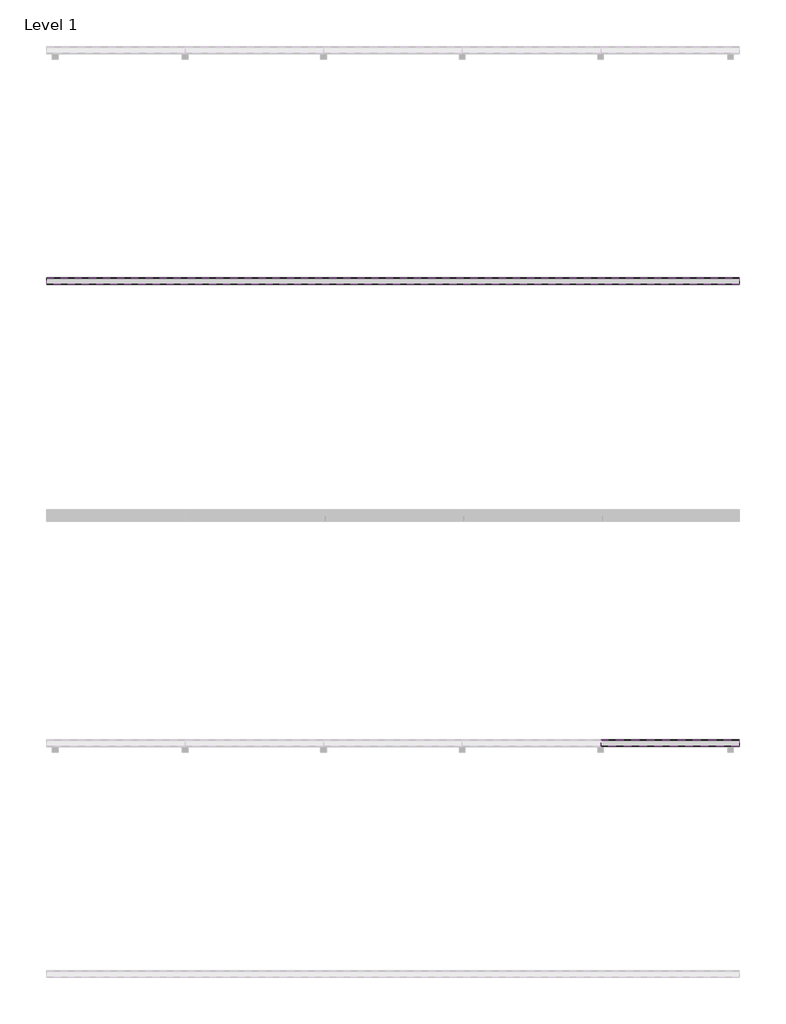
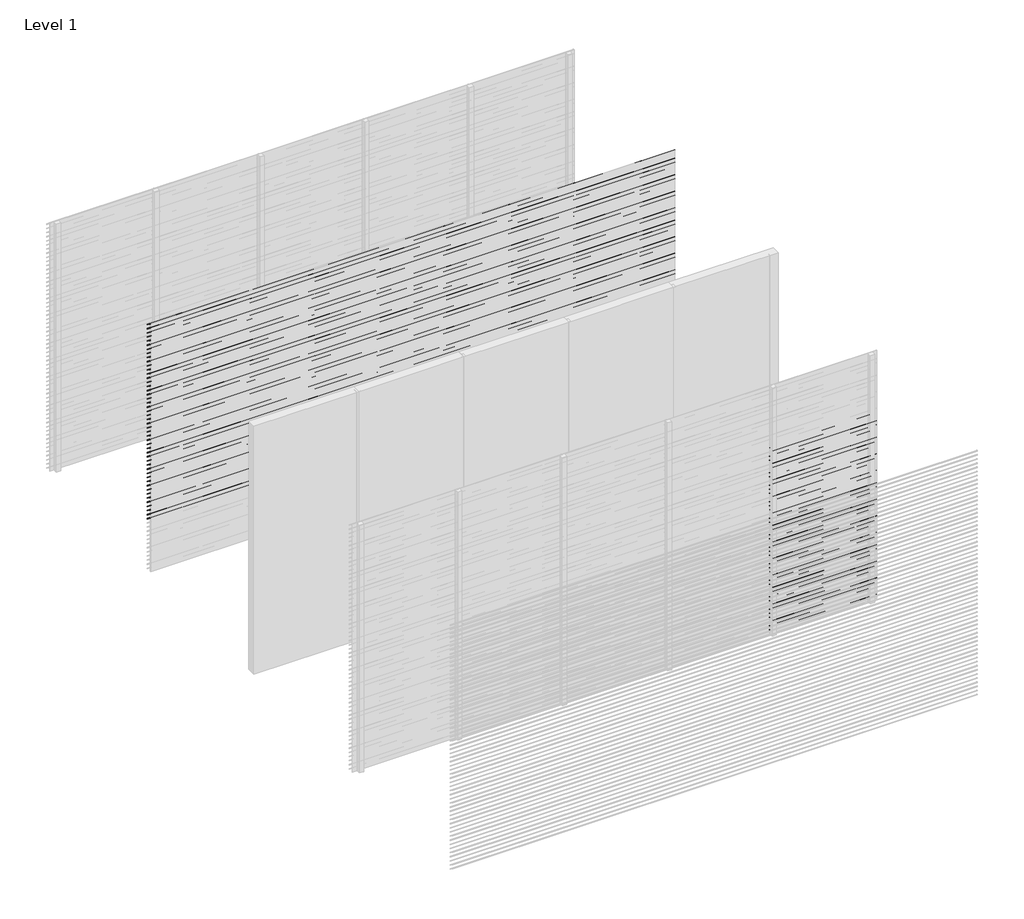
# One storey, part 9 of 16: 93 proxies.
"""IFC4 building model written with IfcOpenShell, lengths in millimetres."""

from ifc_helpers import new_model, si_unit, frame, origin, place, context, project, spatial, polyline, outline, extrude, element, save

model = new_model("IFC4")

# Units and contexts
model_context = context("Model", 3, world=origin())
ifc_project = project(units=[si_unit("LENGTHUNIT", "METRE", prefix="MILLI")], contexts=[model_context])

# Site, building, storey
site = spatial("IfcSite", under=ifc_project)
building = spatial("IfcBuilding", under=site)
storey = spatial("IfcBuildingStorey", under=building, Name="Level 1", Elevation=0.0)

# Proxies
placement = place(None, origin())
element("IfcBuildingElementProxy", 1, Name="Wall Sweeps", at=placement, inside=storey, context=model_context, shape_type="SweptSolid", body=[
    extrude(outline(polyline([(-7995.0, 3000.0), (-7995.0, 2998.0), (-7939.0, 2954.0), (-7939.0, 2946.0), (-7997.0, 2991.5714286), (-7997.0, 3000.0), (-7995.0, 3000.0)])), frame((0.0, 0.0, 0.0), z_axis=(1.0, 0.0, 0.0), x_axis=(0.0, 1.0, 0.0)), (0.0, 0.0, 1.0), 6000.0),
])
element("IfcBuildingElementProxy", 2, Name="Wall Sweeps", at=placement, inside=storey, context=model_context, shape_type="SweptSolid", body=[
    extrude(outline(polyline([(-7995.0, 2950.0), (-7995.0, 2948.0), (-7939.0, 2904.0), (-7939.0, 2896.0), (-7997.0, 2941.5714286), (-7997.0, 2950.0), (-7995.0, 2950.0)])), frame((0.0, 0.0, 0.0), z_axis=(1.0, 0.0, 0.0), x_axis=(0.0, 1.0, 0.0)), (0.0, 0.0, 1.0), 6000.0),
])
element("IfcBuildingElementProxy", 3, Name="Wall Sweeps", at=placement, inside=storey, context=model_context, shape_type="SweptSolid", body=[
    extrude(outline(polyline([(-7995.0, 2900.0), (-7995.0, 2898.0), (-7939.0, 2854.0), (-7939.0, 2846.0), (-7997.0, 2891.5714286), (-7997.0, 2900.0), (-7995.0, 2900.0)])), frame((0.0, 0.0, 0.0), z_axis=(1.0, 0.0, 0.0), x_axis=(0.0, 1.0, 0.0)), (0.0, 0.0, 1.0), 6000.0),
])
element("IfcBuildingElementProxy", 4, Name="Wall Sweeps", at=placement, inside=storey, context=model_context, shape_type="SweptSolid", body=[
    extrude(outline(polyline([(-7995.0, 2850.0), (-7995.0, 2848.0), (-7939.0, 2804.0), (-7939.0, 2796.0), (-7997.0, 2841.5714286), (-7997.0, 2850.0), (-7995.0, 2850.0)])), frame((0.0, 0.0, 0.0), z_axis=(1.0, 0.0, 0.0), x_axis=(0.0, 1.0, 0.0)), (0.0, 0.0, 1.0), 6000.0),
])
element("IfcBuildingElementProxy", 5, Name="Wall Sweeps", at=placement, inside=storey, context=model_context, shape_type="SweptSolid", body=[
    extrude(outline(polyline([(-7995.0, 2800.0), (-7995.0, 2798.0), (-7939.0, 2754.0), (-7939.0, 2746.0), (-7997.0, 2791.5714286), (-7997.0, 2800.0), (-7995.0, 2800.0)])), frame((0.0, 0.0, 0.0), z_axis=(1.0, 0.0, 0.0), x_axis=(0.0, 1.0, 0.0)), (0.0, 0.0, 1.0), 6000.0),
])
element("IfcBuildingElementProxy", 6, Name="Wall Sweeps", at=placement, inside=storey, context=model_context, shape_type="SweptSolid", body=[
    extrude(outline(polyline([(-7995.0, 2750.0), (-7995.0, 2748.0), (-7939.0, 2704.0), (-7939.0, 2696.0), (-7997.0, 2741.5714286), (-7997.0, 2750.0), (-7995.0, 2750.0)])), frame((0.0, 0.0, 0.0), z_axis=(1.0, 0.0, 0.0), x_axis=(0.0, 1.0, 0.0)), (0.0, 0.0, 1.0), 6000.0),
])
element("IfcBuildingElementProxy", 7, Name="Wall Sweeps", at=placement, inside=storey, context=model_context, shape_type="SweptSolid", body=[
    extrude(outline(polyline([(-7995.0, 2700.0), (-7995.0, 2698.0), (-7939.0, 2654.0), (-7939.0, 2646.0), (-7997.0, 2691.5714286), (-7997.0, 2700.0), (-7995.0, 2700.0)])), frame((0.0, 0.0, 0.0), z_axis=(1.0, 0.0, 0.0), x_axis=(0.0, 1.0, 0.0)), (0.0, 0.0, 1.0), 6000.0),
])
element("IfcBuildingElementProxy", 8, Name="Wall Sweeps", at=placement, inside=storey, context=model_context, shape_type="SweptSolid", body=[
    extrude(outline(polyline([(-7995.0, 2650.0), (-7995.0, 2648.0), (-7939.0, 2604.0), (-7939.0, 2596.0), (-7997.0, 2641.5714286), (-7997.0, 2650.0), (-7995.0, 2650.0)])), frame((0.0, 0.0, 0.0), z_axis=(1.0, 0.0, 0.0), x_axis=(0.0, 1.0, 0.0)), (0.0, 0.0, 1.0), 6000.0),
])
element("IfcBuildingElementProxy", 9, Name="Wall Sweeps", at=placement, inside=storey, context=model_context, shape_type="SweptSolid", body=[
    extrude(outline(polyline([(-7995.0, 2600.0), (-7995.0, 2598.0), (-7939.0, 2554.0), (-7939.0, 2546.0), (-7997.0, 2591.5714286), (-7997.0, 2600.0), (-7995.0, 2600.0)])), frame((0.0, 0.0, 0.0), z_axis=(1.0, 0.0, 0.0), x_axis=(0.0, 1.0, 0.0)), (0.0, 0.0, 1.0), 6000.0),
])
element("IfcBuildingElementProxy", 10, Name="Wall Sweeps", at=placement, inside=storey, context=model_context, shape_type="SweptSolid", body=[
    extrude(outline(polyline([(-7995.0, 2550.0), (-7995.0, 2548.0), (-7939.0, 2504.0), (-7939.0, 2496.0), (-7997.0, 2541.5714286), (-7997.0, 2550.0), (-7995.0, 2550.0)])), frame((0.0, 0.0, 0.0), z_axis=(1.0, 0.0, 0.0), x_axis=(0.0, 1.0, 0.0)), (0.0, 0.0, 1.0), 6000.0),
])
element("IfcBuildingElementProxy", 11, Name="Wall Sweeps", at=placement, inside=storey, context=model_context, shape_type="SweptSolid", body=[
    extrude(outline(polyline([(-7995.0, 2500.0), (-7995.0, 2498.0), (-7939.0, 2454.0), (-7939.0, 2446.0), (-7997.0, 2491.5714286), (-7997.0, 2500.0), (-7995.0, 2500.0)])), frame((0.0, 0.0, 0.0), z_axis=(1.0, 0.0, 0.0), x_axis=(0.0, 1.0, 0.0)), (0.0, 0.0, 1.0), 6000.0),
])
element("IfcBuildingElementProxy", 12, Name="Wall Sweeps", at=placement, inside=storey, context=model_context, shape_type="SweptSolid", body=[
    extrude(outline(polyline([(-7995.0, 2450.0), (-7995.0, 2448.0), (-7939.0, 2404.0), (-7939.0, 2396.0), (-7997.0, 2441.5714286), (-7997.0, 2450.0), (-7995.0, 2450.0)])), frame((0.0, 0.0, 0.0), z_axis=(1.0, 0.0, 0.0), x_axis=(0.0, 1.0, 0.0)), (0.0, 0.0, 1.0), 6000.0),
])
element("IfcBuildingElementProxy", 13, Name="Wall Sweeps", at=placement, inside=storey, context=model_context, shape_type="SweptSolid", body=[
    extrude(outline(polyline([(-7995.0, 2400.0), (-7995.0, 2398.0), (-7939.0, 2354.0), (-7939.0, 2346.0), (-7997.0, 2391.5714286), (-7997.0, 2400.0), (-7995.0, 2400.0)])), frame((0.0, 0.0, 0.0), z_axis=(1.0, 0.0, 0.0), x_axis=(0.0, 1.0, 0.0)), (0.0, 0.0, 1.0), 6000.0),
])
element("IfcBuildingElementProxy", 14, Name="Wall Sweeps", at=placement, inside=storey, context=model_context, shape_type="SweptSolid", body=[
    extrude(outline(polyline([(-7995.0, 2350.0), (-7995.0, 2348.0), (-7939.0, 2304.0), (-7939.0, 2296.0), (-7997.0, 2341.5714286), (-7997.0, 2350.0), (-7995.0, 2350.0)])), frame((0.0, 0.0, 0.0), z_axis=(1.0, 0.0, 0.0), x_axis=(0.0, 1.0, 0.0)), (0.0, 0.0, 1.0), 6000.0),
])
element("IfcBuildingElementProxy", 15, Name="Wall Sweeps", at=placement, inside=storey, context=model_context, shape_type="SweptSolid", body=[
    extrude(outline(polyline([(-7995.0, 2300.0), (-7995.0, 2298.0), (-7939.0, 2254.0), (-7939.0, 2246.0), (-7997.0, 2291.5714286), (-7997.0, 2300.0), (-7995.0, 2300.0)])), frame((0.0, 0.0, 0.0), z_axis=(1.0, 0.0, 0.0), x_axis=(0.0, 1.0, 0.0)), (0.0, 0.0, 1.0), 6000.0),
])
element("IfcBuildingElementProxy", 16, Name="Wall Sweeps", at=placement, inside=storey, context=model_context, shape_type="SweptSolid", body=[
    extrude(outline(polyline([(-7995.0, 2250.0), (-7995.0, 2248.0), (-7939.0, 2204.0), (-7939.0, 2196.0), (-7997.0, 2241.5714286), (-7997.0, 2250.0), (-7995.0, 2250.0)])), frame((0.0, 0.0, 0.0), z_axis=(1.0, 0.0, 0.0), x_axis=(0.0, 1.0, 0.0)), (0.0, 0.0, 1.0), 6000.0),
])
element("IfcBuildingElementProxy", 17, Name="Wall Sweeps", at=placement, inside=storey, context=model_context, shape_type="SweptSolid", body=[
    extrude(outline(polyline([(-7995.0, 2200.0), (-7995.0, 2198.0), (-7939.0, 2154.0), (-7939.0, 2146.0), (-7997.0, 2191.5714286), (-7997.0, 2200.0), (-7995.0, 2200.0)])), frame((0.0, 0.0, 0.0), z_axis=(1.0, 0.0, 0.0), x_axis=(0.0, 1.0, 0.0)), (0.0, 0.0, 1.0), 6000.0),
])
element("IfcBuildingElementProxy", 18, Name="Wall Sweeps", at=placement, inside=storey, context=model_context, shape_type="SweptSolid", body=[
    extrude(outline(polyline([(-7995.0, 2150.0), (-7995.0, 2148.0), (-7939.0, 2104.0), (-7939.0, 2096.0), (-7997.0, 2141.5714286), (-7997.0, 2150.0), (-7995.0, 2150.0)])), frame((0.0, 0.0, 0.0), z_axis=(1.0, 0.0, 0.0), x_axis=(0.0, 1.0, 0.0)), (0.0, 0.0, 1.0), 6000.0),
])
element("IfcBuildingElementProxy", 19, Name="Wall Sweeps", at=placement, inside=storey, context=model_context, shape_type="SweptSolid", body=[
    extrude(outline(polyline([(-7995.0, 2100.0), (-7995.0, 2098.0), (-7939.0, 2054.0), (-7939.0, 2046.0), (-7997.0, 2091.5714286), (-7997.0, 2100.0), (-7995.0, 2100.0)])), frame((0.0, 0.0, 0.0), z_axis=(1.0, 0.0, 0.0), x_axis=(0.0, 1.0, 0.0)), (0.0, 0.0, 1.0), 6000.0),
])
element("IfcBuildingElementProxy", 20, Name="Wall Sweeps", at=placement, inside=storey, context=model_context, shape_type="SweptSolid", body=[
    extrude(outline(polyline([(-7995.0, 2050.0), (-7995.0, 2048.0), (-7939.0, 2004.0), (-7939.0, 1996.0), (-7997.0, 2041.5714286), (-7997.0, 2050.0), (-7995.0, 2050.0)])), frame((0.0, 0.0, 0.0), z_axis=(1.0, 0.0, 0.0), x_axis=(0.0, 1.0, 0.0)), (0.0, 0.0, 1.0), 6000.0),
])
element("IfcBuildingElementProxy", 21, Name="Wall Sweeps", at=placement, inside=storey, context=model_context, shape_type="SweptSolid", body=[
    extrude(outline(polyline([(-7995.0, 2000.0), (-7995.0, 1998.0), (-7939.0, 1954.0), (-7939.0, 1946.0), (-7997.0, 1991.5714286), (-7997.0, 2000.0), (-7995.0, 2000.0)])), frame((0.0, 0.0, 0.0), z_axis=(1.0, 0.0, 0.0), x_axis=(0.0, 1.0, 0.0)), (0.0, 0.0, 1.0), 6000.0),
])
element("IfcBuildingElementProxy", 22, Name="Wall Sweeps", at=placement, inside=storey, context=model_context, shape_type="SweptSolid", body=[
    extrude(outline(polyline([(-7995.0, 1950.0), (-7995.0, 1948.0), (-7939.0, 1904.0), (-7939.0, 1896.0), (-7997.0, 1941.5714286), (-7997.0, 1950.0), (-7995.0, 1950.0)])), frame((0.0, 0.0, 0.0), z_axis=(1.0, 0.0, 0.0), x_axis=(0.0, 1.0, 0.0)), (0.0, 0.0, 1.0), 6000.0),
])
element("IfcBuildingElementProxy", 23, Name="Wall Sweeps", at=placement, inside=storey, context=model_context, shape_type="SweptSolid", body=[
    extrude(outline(polyline([(-7995.0, 1900.0), (-7995.0, 1898.0), (-7939.0, 1854.0), (-7939.0, 1846.0), (-7997.0, 1891.5714286), (-7997.0, 1900.0), (-7995.0, 1900.0)])), frame((0.0, 0.0, 0.0), z_axis=(1.0, 0.0, 0.0), x_axis=(0.0, 1.0, 0.0)), (0.0, 0.0, 1.0), 6000.0),
])
element("IfcBuildingElementProxy", 24, Name="Wall Sweeps", at=placement, inside=storey, context=model_context, shape_type="SweptSolid", body=[
    extrude(outline(polyline([(-7995.0, 1850.0), (-7995.0, 1848.0), (-7939.0, 1804.0), (-7939.0, 1796.0), (-7997.0, 1841.5714286), (-7997.0, 1850.0), (-7995.0, 1850.0)])), frame((0.0, 0.0, 0.0), z_axis=(1.0, 0.0, 0.0), x_axis=(0.0, 1.0, 0.0)), (0.0, 0.0, 1.0), 6000.0),
])
element("IfcBuildingElementProxy", 25, Name="Wall Sweeps", at=placement, inside=storey, context=model_context, shape_type="SweptSolid", body=[
    extrude(outline(polyline([(-7995.0, 1800.0), (-7995.0, 1798.0), (-7939.0, 1754.0), (-7939.0, 1746.0), (-7997.0, 1791.5714286), (-7997.0, 1800.0), (-7995.0, 1800.0)])), frame((0.0, 0.0, 0.0), z_axis=(1.0, 0.0, 0.0), x_axis=(0.0, 1.0, 0.0)), (0.0, 0.0, 1.0), 6000.0),
])
element("IfcBuildingElementProxy", 26, Name="Wall Sweeps", at=placement, inside=storey, context=model_context, shape_type="SweptSolid", body=[
    extrude(outline(polyline([(-7995.0, 1750.0), (-7995.0, 1748.0), (-7939.0, 1704.0), (-7939.0, 1696.0), (-7997.0, 1741.5714286), (-7997.0, 1750.0), (-7995.0, 1750.0)])), frame((0.0, 0.0, 0.0), z_axis=(1.0, 0.0, 0.0), x_axis=(0.0, 1.0, 0.0)), (0.0, 0.0, 1.0), 6000.0),
])
element("IfcBuildingElementProxy", 27, Name="Wall Sweeps", at=placement, inside=storey, context=model_context, shape_type="SweptSolid", body=[
    extrude(outline(polyline([(-7995.0, 1700.0), (-7995.0, 1698.0), (-7939.0, 1654.0), (-7939.0, 1646.0), (-7997.0, 1691.5714286), (-7997.0, 1700.0), (-7995.0, 1700.0)])), frame((0.0, 0.0, 0.0), z_axis=(1.0, 0.0, 0.0), x_axis=(0.0, 1.0, 0.0)), (0.0, 0.0, 1.0), 6000.0),
])
element("IfcBuildingElementProxy", 28, Name="Wall Sweeps", at=placement, inside=storey, context=model_context, shape_type="SweptSolid", body=[
    extrude(outline(polyline([(-7995.0, 1650.0), (-7995.0, 1648.0), (-7939.0, 1604.0), (-7939.0, 1596.0), (-7997.0, 1641.5714286), (-7997.0, 1650.0), (-7995.0, 1650.0)])), frame((0.0, 0.0, 0.0), z_axis=(1.0, 0.0, 0.0), x_axis=(0.0, 1.0, 0.0)), (0.0, 0.0, 1.0), 6000.0),
])
element("IfcBuildingElementProxy", 29, Name="Wall Sweeps", at=placement, inside=storey, context=model_context, shape_type="SweptSolid", body=[
    extrude(outline(polyline([(-7995.0, 1600.0), (-7995.0, 1598.0), (-7939.0, 1554.0), (-7939.0, 1546.0), (-7997.0, 1591.5714286), (-7997.0, 1600.0), (-7995.0, 1600.0)])), frame((0.0, 0.0, 0.0), z_axis=(1.0, 0.0, 0.0), x_axis=(0.0, 1.0, 0.0)), (0.0, 0.0, 1.0), 6000.0),
])
element("IfcBuildingElementProxy", 30, Name="Wall Sweeps", at=placement, inside=storey, context=model_context, shape_type="SweptSolid", body=[
    extrude(outline(polyline([(-7995.0, 1550.0), (-7995.0, 1548.0), (-7939.0, 1504.0), (-7939.0, 1496.0), (-7997.0, 1541.5714286), (-7997.0, 1550.0), (-7995.0, 1550.0)])), frame((0.0, 0.0, 0.0), z_axis=(1.0, 0.0, 0.0), x_axis=(0.0, 1.0, 0.0)), (0.0, 0.0, 1.0), 6000.0),
])
element("IfcBuildingElementProxy", 31, Name="Wall Sweeps", at=placement, inside=storey, context=model_context, shape_type="SweptSolid", body=[
    extrude(outline(polyline([(-7995.0, 1500.0), (-7995.0, 1498.0), (-7939.0, 1454.0), (-7939.0, 1446.0), (-7997.0, 1491.5714286), (-7997.0, 1500.0), (-7995.0, 1500.0)])), frame((0.0, 0.0, 0.0), z_axis=(1.0, 0.0, 0.0), x_axis=(0.0, 1.0, 0.0)), (0.0, 0.0, 1.0), 6000.0),
])
element("IfcBuildingElementProxy", 32, Name="Wall Sweeps", at=placement, inside=storey, context=model_context, shape_type="SweptSolid", body=[
    extrude(outline(polyline([(-7995.0, 1450.0), (-7995.0, 1448.0), (-7939.0, 1404.0), (-7939.0, 1396.0), (-7997.0, 1441.5714286), (-7997.0, 1450.0), (-7995.0, 1450.0)])), frame((0.0, 0.0, 0.0), z_axis=(1.0, 0.0, 0.0), x_axis=(0.0, 1.0, 0.0)), (0.0, 0.0, 1.0), 6000.0),
])
element("IfcBuildingElementProxy", 33, Name="Wall Sweeps", at=placement, inside=storey, context=model_context, shape_type="SweptSolid", body=[
    extrude(outline(polyline([(-7995.0, 1400.0), (-7995.0, 1398.0), (-7939.0, 1354.0), (-7939.0, 1346.0), (-7997.0, 1391.5714286), (-7997.0, 1400.0), (-7995.0, 1400.0)])), frame((0.0, 0.0, 0.0), z_axis=(1.0, 0.0, 0.0), x_axis=(0.0, 1.0, 0.0)), (0.0, 0.0, 1.0), 6000.0),
])
element("IfcBuildingElementProxy", 34, Name="Wall Sweeps", at=placement, inside=storey, context=model_context, shape_type="SweptSolid", body=[
    extrude(outline(polyline([(-7995.0, 1350.0), (-7995.0, 1348.0), (-7939.0, 1304.0), (-7939.0, 1296.0), (-7997.0, 1341.5714286), (-7997.0, 1350.0), (-7995.0, 1350.0)])), frame((0.0, 0.0, 0.0), z_axis=(1.0, 0.0, 0.0), x_axis=(0.0, 1.0, 0.0)), (0.0, 0.0, 1.0), 6000.0),
])
element("IfcBuildingElementProxy", 35, Name="Wall Sweeps", at=placement, inside=storey, context=model_context, shape_type="SweptSolid", body=[
    extrude(outline(polyline([(-7995.0, 1300.0), (-7995.0, 1298.0), (-7939.0, 1254.0), (-7939.0, 1246.0), (-7997.0, 1291.5714286), (-7997.0, 1300.0), (-7995.0, 1300.0)])), frame((0.0, 0.0, 0.0), z_axis=(1.0, 0.0, 0.0), x_axis=(0.0, 1.0, 0.0)), (0.0, 0.0, 1.0), 6000.0),
])
element("IfcBuildingElementProxy", 36, Name="Wall Sweeps", at=placement, inside=storey, context=model_context, shape_type="SweptSolid", body=[
    extrude(outline(polyline([(-7995.0, 1250.0), (-7995.0, 1248.0), (-7939.0, 1204.0), (-7939.0, 1196.0), (-7997.0, 1241.5714286), (-7997.0, 1250.0), (-7995.0, 1250.0)])), frame((0.0, 0.0, 0.0), z_axis=(1.0, 0.0, 0.0), x_axis=(0.0, 1.0, 0.0)), (0.0, 0.0, 1.0), 6000.0),
])
element("IfcBuildingElementProxy", 37, Name="Wall Sweeps", at=placement, inside=storey, context=model_context, shape_type="SweptSolid", body=[
    extrude(outline(polyline([(-7995.0, 1200.0), (-7995.0, 1198.0), (-7939.0, 1154.0), (-7939.0, 1146.0), (-7997.0, 1191.5714286), (-7997.0, 1200.0), (-7995.0, 1200.0)])), frame((0.0, 0.0, 0.0), z_axis=(1.0, 0.0, 0.0), x_axis=(0.0, 1.0, 0.0)), (0.0, 0.0, 1.0), 6000.0),
])
element("IfcBuildingElementProxy", 38, Name="Wall Sweeps", at=placement, inside=storey, context=model_context, shape_type="SweptSolid", body=[
    extrude(outline(polyline([(-7995.0, 1150.0), (-7995.0, 1148.0), (-7939.0, 1104.0), (-7939.0, 1096.0), (-7997.0, 1141.5714286), (-7997.0, 1150.0), (-7995.0, 1150.0)])), frame((0.0, 0.0, 0.0), z_axis=(1.0, 0.0, 0.0), x_axis=(0.0, 1.0, 0.0)), (0.0, 0.0, 1.0), 6000.0),
])
element("IfcBuildingElementProxy", 39, Name="Wall Sweeps", at=placement, inside=storey, context=model_context, shape_type="SweptSolid", body=[
    extrude(outline(polyline([(-7995.0, 1100.0), (-7995.0, 1098.0), (-7939.0, 1054.0), (-7939.0, 1046.0), (-7997.0, 1091.5714286), (-7997.0, 1100.0), (-7995.0, 1100.0)])), frame((0.0, 0.0, 0.0), z_axis=(1.0, 0.0, 0.0), x_axis=(0.0, 1.0, 0.0)), (0.0, 0.0, 1.0), 6000.0),
])
element("IfcBuildingElementProxy", 40, Name="Wall Sweeps", at=placement, inside=storey, context=model_context, shape_type="SweptSolid", body=[
    extrude(outline(polyline([(-7995.0, 1050.0), (-7995.0, 1048.0), (-7939.0, 1004.0), (-7939.0, 996.0), (-7997.0, 1041.5714286), (-7997.0, 1050.0), (-7995.0, 1050.0)])), frame((0.0, 0.0, 0.0), z_axis=(1.0, 0.0, 0.0), x_axis=(0.0, 1.0, 0.0)), (0.0, 0.0, 1.0), 6000.0),
])
element("IfcBuildingElementProxy", 41, Name="Wall Sweeps", at=placement, inside=storey, context=model_context, shape_type="SweptSolid", body=[
    extrude(outline(polyline([(-7995.0, 1000.0), (-7995.0, 998.0), (-7939.0, 954.0), (-7939.0, 946.0), (-7997.0, 991.5714286), (-7997.0, 1000.0), (-7995.0, 1000.0)])), frame((0.0, 0.0, 0.0), z_axis=(1.0, 0.0, 0.0), x_axis=(0.0, 1.0, 0.0)), (0.0, 0.0, 1.0), 6000.0),
])
element("IfcBuildingElementProxy", 42, Name="Wall Sweeps", at=placement, inside=storey, context=model_context, shape_type="SweptSolid", body=[
    extrude(outline(polyline([(-7995.0, 950.0), (-7995.0, 948.0), (-7939.0, 904.0), (-7939.0, 896.0), (-7997.0, 941.5714286), (-7997.0, 950.0), (-7995.0, 950.0)])), frame((0.0, 0.0, 0.0), z_axis=(1.0, 0.0, 0.0), x_axis=(0.0, 1.0, 0.0)), (0.0, 0.0, 1.0), 6000.0),
])
element("IfcBuildingElementProxy", 43, Name="Wall Sweeps", at=placement, inside=storey, context=model_context, shape_type="SweptSolid", body=[
    extrude(outline(polyline([(-7995.0, 900.0), (-7995.0, 898.0), (-7939.0, 854.0), (-7939.0, 846.0), (-7997.0, 891.5714286), (-7997.0, 900.0), (-7995.0, 900.0)])), frame((0.0, 0.0, 0.0), z_axis=(1.0, 0.0, 0.0), x_axis=(0.0, 1.0, 0.0)), (0.0, 0.0, 1.0), 6000.0),
])
element("IfcBuildingElementProxy", 44, Name="Wall Sweeps", at=placement, inside=storey, context=model_context, shape_type="SweptSolid", body=[
    extrude(outline(polyline([(-7995.0, 850.0), (-7995.0, 848.0), (-7939.0, 804.0), (-7939.0, 796.0), (-7997.0, 841.5714286), (-7997.0, 850.0), (-7995.0, 850.0)])), frame((0.0, 0.0, 0.0), z_axis=(1.0, 0.0, 0.0), x_axis=(0.0, 1.0, 0.0)), (0.0, 0.0, 1.0), 6000.0),
])
element("IfcBuildingElementProxy", 45, Name="Wall Sweeps", at=placement, inside=storey, context=model_context, shape_type="SweptSolid", body=[
    extrude(outline(polyline([(-7995.0, 800.0), (-7995.0, 798.0), (-7939.0, 754.0), (-7939.0, 746.0), (-7997.0, 791.5714286), (-7997.0, 800.0), (-7995.0, 800.0)])), frame((0.0, 0.0, 0.0), z_axis=(1.0, 0.0, 0.0), x_axis=(0.0, 1.0, 0.0)), (0.0, 0.0, 1.0), 6000.0),
])
element("IfcBuildingElementProxy", 46, Name="Wall Sweeps", at=placement, inside=storey, context=model_context, shape_type="SweptSolid", body=[
    extrude(outline(polyline([(-7995.0, 750.0), (-7995.0, 748.0), (-7939.0, 704.0), (-7939.0, 696.0), (-7997.0, 741.5714286), (-7997.0, 750.0), (-7995.0, 750.0)])), frame((0.0, 0.0, 0.0), z_axis=(1.0, 0.0, 0.0), x_axis=(0.0, 1.0, 0.0)), (0.0, 0.0, 1.0), 6000.0),
])
element("IfcBuildingElementProxy", 47, Name="Wall Sweeps", at=placement, inside=storey, context=model_context, shape_type="SweptSolid", body=[
    extrude(outline(polyline([(-7995.0, 700.0), (-7995.0, 698.0), (-7939.0, 654.0), (-7939.0, 646.0), (-7997.0, 691.5714286), (-7997.0, 700.0), (-7995.0, 700.0)])), frame((0.0, 0.0, 0.0), z_axis=(1.0, 0.0, 0.0), x_axis=(0.0, 1.0, 0.0)), (0.0, 0.0, 1.0), 6000.0),
])
element("IfcBuildingElementProxy", 48, Name="Wall Sweeps", at=placement, inside=storey, context=model_context, shape_type="SweptSolid", body=[
    extrude(outline(polyline([(-7995.0, 650.0), (-7995.0, 648.0), (-7939.0, 604.0), (-7939.0, 596.0), (-7997.0, 641.5714286), (-7997.0, 650.0), (-7995.0, 650.0)])), frame((0.0, 0.0, 0.0), z_axis=(1.0, 0.0, 0.0), x_axis=(0.0, 1.0, 0.0)), (0.0, 0.0, 1.0), 6000.0),
])
element("IfcBuildingElementProxy", 49, Name="Wall Sweeps", at=placement, inside=storey, context=model_context, shape_type="SweptSolid", body=[
    extrude(outline(polyline([(-11995.0, 2250.0), (-11995.0, 2248.0), (-11939.0, 2204.0), (-11939.0, 2196.0), (-11997.0, 2241.5714286), (-11997.0, 2250.0), (-11995.0, 2250.0)])), frame((4800.0, 0.0, 0.0), z_axis=(1.0, 0.0, 0.0), x_axis=(0.0, 1.0, 0.0)), (0.0, 0.0, 1.0), 1200.0),
])
element("IfcBuildingElementProxy", 50, Name="Wall Sweeps", at=placement, inside=storey, context=model_context, shape_type="SweptSolid", body=[
    extrude(outline(polyline([(-11995.0, 2200.0), (-11995.0, 2198.0), (-11939.0, 2154.0), (-11939.0, 2146.0), (-11997.0, 2191.5714286), (-11997.0, 2200.0), (-11995.0, 2200.0)])), frame((4800.0, 0.0, 0.0), z_axis=(1.0, 0.0, 0.0), x_axis=(0.0, 1.0, 0.0)), (0.0, 0.0, 1.0), 1200.0),
])
element("IfcBuildingElementProxy", 51, Name="Wall Sweeps", at=placement, inside=storey, context=model_context, shape_type="SweptSolid", body=[
    extrude(outline(polyline([(-11995.0, 2150.0), (-11995.0, 2148.0), (-11939.0, 2104.0), (-11939.0, 2096.0), (-11997.0, 2141.5714286), (-11997.0, 2150.0), (-11995.0, 2150.0)])), frame((4800.0, 0.0, 0.0), z_axis=(1.0, 0.0, 0.0), x_axis=(0.0, 1.0, 0.0)), (0.0, 0.0, 1.0), 1200.0),
])
element("IfcBuildingElementProxy", 52, Name="Wall Sweeps", at=placement, inside=storey, context=model_context, shape_type="SweptSolid", body=[
    extrude(outline(polyline([(-11995.0, 2100.0), (-11995.0, 2098.0), (-11939.0, 2054.0), (-11939.0, 2046.0), (-11997.0, 2091.5714286), (-11997.0, 2100.0), (-11995.0, 2100.0)])), frame((4800.0, 0.0, 0.0), z_axis=(1.0, 0.0, 0.0), x_axis=(0.0, 1.0, 0.0)), (0.0, 0.0, 1.0), 1200.0),
])
element("IfcBuildingElementProxy", 53, Name="Wall Sweeps", at=placement, inside=storey, context=model_context, shape_type="SweptSolid", body=[
    extrude(outline(polyline([(-11995.0, 2050.0), (-11995.0, 2048.0), (-11939.0, 2004.0), (-11939.0, 1996.0), (-11997.0, 2041.5714286), (-11997.0, 2050.0), (-11995.0, 2050.0)])), frame((4800.0, 0.0, 0.0), z_axis=(1.0, 0.0, 0.0), x_axis=(0.0, 1.0, 0.0)), (0.0, 0.0, 1.0), 1200.0),
])
element("IfcBuildingElementProxy", 54, Name="Wall Sweeps", at=placement, inside=storey, context=model_context, shape_type="SweptSolid", body=[
    extrude(outline(polyline([(-11995.0, 2000.0), (-11995.0, 1998.0), (-11939.0, 1954.0), (-11939.0, 1946.0), (-11997.0, 1991.5714286), (-11997.0, 2000.0), (-11995.0, 2000.0)])), frame((4800.0, 0.0, 0.0), z_axis=(1.0, 0.0, 0.0), x_axis=(0.0, 1.0, 0.0)), (0.0, 0.0, 1.0), 1200.0),
])
element("IfcBuildingElementProxy", 55, Name="Wall Sweeps", at=placement, inside=storey, context=model_context, shape_type="SweptSolid", body=[
    extrude(outline(polyline([(-11995.0, 1950.0), (-11995.0, 1948.0), (-11939.0, 1904.0), (-11939.0, 1896.0), (-11997.0, 1941.5714286), (-11997.0, 1950.0), (-11995.0, 1950.0)])), frame((4800.0, 0.0, 0.0), z_axis=(1.0, 0.0, 0.0), x_axis=(0.0, 1.0, 0.0)), (0.0, 0.0, 1.0), 1200.0),
])
element("IfcBuildingElementProxy", 56, Name="Wall Sweeps", at=placement, inside=storey, context=model_context, shape_type="SweptSolid", body=[
    extrude(outline(polyline([(-11995.0, 1900.0), (-11995.0, 1898.0), (-11939.0, 1854.0), (-11939.0, 1846.0), (-11997.0, 1891.5714286), (-11997.0, 1900.0), (-11995.0, 1900.0)])), frame((4800.0, 0.0, 0.0), z_axis=(1.0, 0.0, 0.0), x_axis=(0.0, 1.0, 0.0)), (0.0, 0.0, 1.0), 1200.0),
])
element("IfcBuildingElementProxy", 57, Name="Wall Sweeps", at=placement, inside=storey, context=model_context, shape_type="SweptSolid", body=[
    extrude(outline(polyline([(-11995.0, 1850.0), (-11995.0, 1848.0), (-11939.0, 1804.0), (-11939.0, 1796.0), (-11997.0, 1841.5714286), (-11997.0, 1850.0), (-11995.0, 1850.0)])), frame((4800.0, 0.0, 0.0), z_axis=(1.0, 0.0, 0.0), x_axis=(0.0, 1.0, 0.0)), (0.0, 0.0, 1.0), 1200.0),
])
element("IfcBuildingElementProxy", 58, Name="Wall Sweeps", at=placement, inside=storey, context=model_context, shape_type="SweptSolid", body=[
    extrude(outline(polyline([(-11995.0, 1800.0), (-11995.0, 1798.0), (-11939.0, 1754.0), (-11939.0, 1746.0), (-11997.0, 1791.5714286), (-11997.0, 1800.0), (-11995.0, 1800.0)])), frame((4800.0, 0.0, 0.0), z_axis=(1.0, 0.0, 0.0), x_axis=(0.0, 1.0, 0.0)), (0.0, 0.0, 1.0), 1200.0),
])
element("IfcBuildingElementProxy", 59, Name="Wall Sweeps", at=placement, inside=storey, context=model_context, shape_type="SweptSolid", body=[
    extrude(outline(polyline([(-11995.0, 1750.0), (-11995.0, 1748.0), (-11939.0, 1704.0), (-11939.0, 1696.0), (-11997.0, 1741.5714286), (-11997.0, 1750.0), (-11995.0, 1750.0)])), frame((4800.0, 0.0, 0.0), z_axis=(1.0, 0.0, 0.0), x_axis=(0.0, 1.0, 0.0)), (0.0, 0.0, 1.0), 1200.0),
])
element("IfcBuildingElementProxy", 60, Name="Wall Sweeps", at=placement, inside=storey, context=model_context, shape_type="SweptSolid", body=[
    extrude(outline(polyline([(-11995.0, 1700.0), (-11995.0, 1698.0), (-11939.0, 1654.0), (-11939.0, 1646.0), (-11997.0, 1691.5714286), (-11997.0, 1700.0), (-11995.0, 1700.0)])), frame((4800.0, 0.0, 0.0), z_axis=(1.0, 0.0, 0.0), x_axis=(0.0, 1.0, 0.0)), (0.0, 0.0, 1.0), 1200.0),
])
element("IfcBuildingElementProxy", 61, Name="Wall Sweeps", at=placement, inside=storey, context=model_context, shape_type="SweptSolid", body=[
    extrude(outline(polyline([(-11995.0, 1650.0), (-11995.0, 1648.0), (-11939.0, 1604.0), (-11939.0, 1596.0), (-11997.0, 1641.5714286), (-11997.0, 1650.0), (-11995.0, 1650.0)])), frame((4800.0, 0.0, 0.0), z_axis=(1.0, 0.0, 0.0), x_axis=(0.0, 1.0, 0.0)), (0.0, 0.0, 1.0), 1200.0),
])
element("IfcBuildingElementProxy", 62, Name="Wall Sweeps", at=placement, inside=storey, context=model_context, shape_type="SweptSolid", body=[
    extrude(outline(polyline([(-11995.0, 1600.0), (-11995.0, 1598.0), (-11939.0, 1554.0), (-11939.0, 1546.0), (-11997.0, 1591.5714286), (-11997.0, 1600.0), (-11995.0, 1600.0)])), frame((4800.0, 0.0, 0.0), z_axis=(1.0, 0.0, 0.0), x_axis=(0.0, 1.0, 0.0)), (0.0, 0.0, 1.0), 1200.0),
])
element("IfcBuildingElementProxy", 63, Name="Wall Sweeps", at=placement, inside=storey, context=model_context, shape_type="SweptSolid", body=[
    extrude(outline(polyline([(-11995.0, 1550.0), (-11995.0, 1548.0), (-11939.0, 1504.0), (-11939.0, 1496.0), (-11997.0, 1541.5714286), (-11997.0, 1550.0), (-11995.0, 1550.0)])), frame((4800.0, 0.0, 0.0), z_axis=(1.0, 0.0, 0.0), x_axis=(0.0, 1.0, 0.0)), (0.0, 0.0, 1.0), 1200.0),
])
element("IfcBuildingElementProxy", 64, Name="Wall Sweeps", at=placement, inside=storey, context=model_context, shape_type="SweptSolid", body=[
    extrude(outline(polyline([(-11995.0, 1500.0), (-11995.0, 1498.0), (-11939.0, 1454.0), (-11939.0, 1446.0), (-11997.0, 1491.5714286), (-11997.0, 1500.0), (-11995.0, 1500.0)])), frame((4800.0, 0.0, 0.0), z_axis=(1.0, 0.0, 0.0), x_axis=(0.0, 1.0, 0.0)), (0.0, 0.0, 1.0), 1200.0),
])
element("IfcBuildingElementProxy", 65, Name="Wall Sweeps", at=placement, inside=storey, context=model_context, shape_type="SweptSolid", body=[
    extrude(outline(polyline([(-11995.0, 1450.0), (-11995.0, 1448.0), (-11939.0, 1404.0), (-11939.0, 1396.0), (-11997.0, 1441.5714286), (-11997.0, 1450.0), (-11995.0, 1450.0)])), frame((4800.0, 0.0, 0.0), z_axis=(1.0, 0.0, 0.0), x_axis=(0.0, 1.0, 0.0)), (0.0, 0.0, 1.0), 1200.0),
])
element("IfcBuildingElementProxy", 66, Name="Wall Sweeps", at=placement, inside=storey, context=model_context, shape_type="SweptSolid", body=[
    extrude(outline(polyline([(-11995.0, 1400.0), (-11995.0, 1398.0), (-11939.0, 1354.0), (-11939.0, 1346.0), (-11997.0, 1391.5714286), (-11997.0, 1400.0), (-11995.0, 1400.0)])), frame((4800.0, 0.0, 0.0), z_axis=(1.0, 0.0, 0.0), x_axis=(0.0, 1.0, 0.0)), (0.0, 0.0, 1.0), 1200.0),
])
element("IfcBuildingElementProxy", 67, Name="Wall Sweeps", at=placement, inside=storey, context=model_context, shape_type="SweptSolid", body=[
    extrude(outline(polyline([(-11995.0, 1350.0), (-11995.0, 1348.0), (-11939.0, 1304.0), (-11939.0, 1296.0), (-11997.0, 1341.5714286), (-11997.0, 1350.0), (-11995.0, 1350.0)])), frame((4800.0, 0.0, 0.0), z_axis=(1.0, 0.0, 0.0), x_axis=(0.0, 1.0, 0.0)), (0.0, 0.0, 1.0), 1200.0),
])
element("IfcBuildingElementProxy", 68, Name="Wall Sweeps", at=placement, inside=storey, context=model_context, shape_type="SweptSolid", body=[
    extrude(outline(polyline([(-11995.0, 1300.0), (-11995.0, 1298.0), (-11939.0, 1254.0), (-11939.0, 1246.0), (-11997.0, 1291.5714286), (-11997.0, 1300.0), (-11995.0, 1300.0)])), frame((4800.0, 0.0, 0.0), z_axis=(1.0, 0.0, 0.0), x_axis=(0.0, 1.0, 0.0)), (0.0, 0.0, 1.0), 1200.0),
])
element("IfcBuildingElementProxy", 69, Name="Wall Sweeps", at=placement, inside=storey, context=model_context, shape_type="SweptSolid", body=[
    extrude(outline(polyline([(-11995.0, 1250.0), (-11995.0, 1248.0), (-11939.0, 1204.0), (-11939.0, 1196.0), (-11997.0, 1241.5714286), (-11997.0, 1250.0), (-11995.0, 1250.0)])), frame((4800.0, 0.0, 0.0), z_axis=(1.0, 0.0, 0.0), x_axis=(0.0, 1.0, 0.0)), (0.0, 0.0, 1.0), 1200.0),
])
element("IfcBuildingElementProxy", 70, Name="Wall Sweeps", at=placement, inside=storey, context=model_context, shape_type="SweptSolid", body=[
    extrude(outline(polyline([(-11995.0, 1200.0), (-11995.0, 1198.0), (-11939.0, 1154.0), (-11939.0, 1146.0), (-11997.0, 1191.5714286), (-11997.0, 1200.0), (-11995.0, 1200.0)])), frame((4800.0, 0.0, 0.0), z_axis=(1.0, 0.0, 0.0), x_axis=(0.0, 1.0, 0.0)), (0.0, 0.0, 1.0), 1200.0),
])
element("IfcBuildingElementProxy", 71, Name="Wall Sweeps", at=placement, inside=storey, context=model_context, shape_type="SweptSolid", body=[
    extrude(outline(polyline([(-11995.0, 1150.0), (-11995.0, 1148.0), (-11939.0, 1104.0), (-11939.0, 1096.0), (-11997.0, 1141.5714286), (-11997.0, 1150.0), (-11995.0, 1150.0)])), frame((4800.0, 0.0, 0.0), z_axis=(1.0, 0.0, 0.0), x_axis=(0.0, 1.0, 0.0)), (0.0, 0.0, 1.0), 1200.0),
])
element("IfcBuildingElementProxy", 72, Name="Wall Sweeps", at=placement, inside=storey, context=model_context, shape_type="SweptSolid", body=[
    extrude(outline(polyline([(-11995.0, 1100.0), (-11995.0, 1098.0), (-11939.0, 1054.0), (-11939.0, 1046.0), (-11997.0, 1091.5714286), (-11997.0, 1100.0), (-11995.0, 1100.0)])), frame((4800.0, 0.0, 0.0), z_axis=(1.0, 0.0, 0.0), x_axis=(0.0, 1.0, 0.0)), (0.0, 0.0, 1.0), 1200.0),
])
element("IfcBuildingElementProxy", 73, Name="Wall Sweeps", at=placement, inside=storey, context=model_context, shape_type="SweptSolid", body=[
    extrude(outline(polyline([(-11995.0, 1050.0), (-11995.0, 1048.0), (-11939.0, 1004.0), (-11939.0, 996.0), (-11997.0, 1041.5714286), (-11997.0, 1050.0), (-11995.0, 1050.0)])), frame((4800.0, 0.0, 0.0), z_axis=(1.0, 0.0, 0.0), x_axis=(0.0, 1.0, 0.0)), (0.0, 0.0, 1.0), 1200.0),
])
element("IfcBuildingElementProxy", 74, Name="Wall Sweeps", at=placement, inside=storey, context=model_context, shape_type="SweptSolid", body=[
    extrude(outline(polyline([(-11995.0, 1000.0), (-11995.0, 998.0), (-11939.0, 954.0), (-11939.0, 946.0), (-11997.0, 991.5714286), (-11997.0, 1000.0), (-11995.0, 1000.0)])), frame((4800.0, 0.0, 0.0), z_axis=(1.0, 0.0, 0.0), x_axis=(0.0, 1.0, 0.0)), (0.0, 0.0, 1.0), 1200.0),
])
element("IfcBuildingElementProxy", 75, Name="Wall Sweeps", at=placement, inside=storey, context=model_context, shape_type="SweptSolid", body=[
    extrude(outline(polyline([(-11995.0, 950.0), (-11995.0, 948.0), (-11939.0, 904.0), (-11939.0, 896.0), (-11997.0, 941.5714286), (-11997.0, 950.0), (-11995.0, 950.0)])), frame((4800.0, 0.0, 0.0), z_axis=(1.0, 0.0, 0.0), x_axis=(0.0, 1.0, 0.0)), (0.0, 0.0, 1.0), 1200.0),
])
element("IfcBuildingElementProxy", 76, Name="Wall Sweeps", at=placement, inside=storey, context=model_context, shape_type="SweptSolid", body=[
    extrude(outline(polyline([(-11995.0, 900.0), (-11995.0, 898.0), (-11939.0, 854.0), (-11939.0, 846.0), (-11997.0, 891.5714286), (-11997.0, 900.0), (-11995.0, 900.0)])), frame((4800.0, 0.0, 0.0), z_axis=(1.0, 0.0, 0.0), x_axis=(0.0, 1.0, 0.0)), (0.0, 0.0, 1.0), 1200.0),
])
element("IfcBuildingElementProxy", 77, Name="Wall Sweeps", at=placement, inside=storey, context=model_context, shape_type="SweptSolid", body=[
    extrude(outline(polyline([(-11995.0, 850.0), (-11995.0, 848.0), (-11939.0, 804.0), (-11939.0, 796.0), (-11997.0, 841.5714286), (-11997.0, 850.0), (-11995.0, 850.0)])), frame((4800.0, 0.0, 0.0), z_axis=(1.0, 0.0, 0.0), x_axis=(0.0, 1.0, 0.0)), (0.0, 0.0, 1.0), 1200.0),
])
element("IfcBuildingElementProxy", 78, Name="Wall Sweeps", at=placement, inside=storey, context=model_context, shape_type="SweptSolid", body=[
    extrude(outline(polyline([(-11995.0, 800.0), (-11995.0, 798.0), (-11939.0, 754.0), (-11939.0, 746.0), (-11997.0, 791.5714286), (-11997.0, 800.0), (-11995.0, 800.0)])), frame((4800.0, 0.0, 0.0), z_axis=(1.0, 0.0, 0.0), x_axis=(0.0, 1.0, 0.0)), (0.0, 0.0, 1.0), 1200.0),
])
element("IfcBuildingElementProxy", 79, Name="Wall Sweeps", at=placement, inside=storey, context=model_context, shape_type="SweptSolid", body=[
    extrude(outline(polyline([(-11995.0, 750.0), (-11995.0, 748.0), (-11939.0, 704.0), (-11939.0, 696.0), (-11997.0, 741.5714286), (-11997.0, 750.0), (-11995.0, 750.0)])), frame((4800.0, 0.0, 0.0), z_axis=(1.0, 0.0, 0.0), x_axis=(0.0, 1.0, 0.0)), (0.0, 0.0, 1.0), 1200.0),
])
element("IfcBuildingElementProxy", 80, Name="Wall Sweeps", at=placement, inside=storey, context=model_context, shape_type="SweptSolid", body=[
    extrude(outline(polyline([(-11995.0, 700.0), (-11995.0, 698.0), (-11939.0, 654.0), (-11939.0, 646.0), (-11997.0, 691.5714286), (-11997.0, 700.0), (-11995.0, 700.0)])), frame((4800.0, 0.0, 0.0), z_axis=(1.0, 0.0, 0.0), x_axis=(0.0, 1.0, 0.0)), (0.0, 0.0, 1.0), 1200.0),
])
element("IfcBuildingElementProxy", 81, Name="Wall Sweeps", at=placement, inside=storey, context=model_context, shape_type="SweptSolid", body=[
    extrude(outline(polyline([(-11995.0, 650.0), (-11995.0, 648.0), (-11939.0, 604.0), (-11939.0, 596.0), (-11997.0, 641.5714286), (-11997.0, 650.0), (-11995.0, 650.0)])), frame((4800.0, 0.0, 0.0), z_axis=(1.0, 0.0, 0.0), x_axis=(0.0, 1.0, 0.0)), (0.0, 0.0, 1.0), 1200.0),
])
element("IfcBuildingElementProxy", 82, Name="Wall Sweeps", at=placement, inside=storey, context=model_context, shape_type="SweptSolid", body=[
    extrude(outline(polyline([(-11995.0, 600.0), (-11995.0, 598.0), (-11939.0, 554.0), (-11939.0, 546.0), (-11997.0, 591.5714286), (-11997.0, 600.0), (-11995.0, 600.0)])), frame((4800.0, 0.0, 0.0), z_axis=(1.0, 0.0, 0.0), x_axis=(0.0, 1.0, 0.0)), (0.0, 0.0, 1.0), 1200.0),
])
element("IfcBuildingElementProxy", 83, Name="Wall Sweeps", at=placement, inside=storey, context=model_context, shape_type="SweptSolid", body=[
    extrude(outline(polyline([(-11995.0, 550.0), (-11995.0, 548.0), (-11939.0, 504.0), (-11939.0, 496.0), (-11997.0, 541.5714286), (-11997.0, 550.0), (-11995.0, 550.0)])), frame((4800.0, 0.0, 0.0), z_axis=(1.0, 0.0, 0.0), x_axis=(0.0, 1.0, 0.0)), (0.0, 0.0, 1.0), 1200.0),
])
element("IfcBuildingElementProxy", 84, Name="Wall Sweeps", at=placement, inside=storey, context=model_context, shape_type="SweptSolid", body=[
    extrude(outline(polyline([(-11995.0, 500.0), (-11995.0, 498.0), (-11939.0, 454.0), (-11939.0, 446.0), (-11997.0, 491.5714286), (-11997.0, 500.0), (-11995.0, 500.0)])), frame((4800.0, 0.0, 0.0), z_axis=(1.0, 0.0, 0.0), x_axis=(0.0, 1.0, 0.0)), (0.0, 0.0, 1.0), 1200.0),
])
element("IfcBuildingElementProxy", 85, Name="Wall Sweeps", at=placement, inside=storey, context=model_context, shape_type="SweptSolid", body=[
    extrude(outline(polyline([(-11995.0, 450.0), (-11995.0, 448.0), (-11939.0, 404.0), (-11939.0, 396.0), (-11997.0, 441.5714286), (-11997.0, 450.0), (-11995.0, 450.0)])), frame((4800.0, 0.0, 0.0), z_axis=(1.0, 0.0, 0.0), x_axis=(0.0, 1.0, 0.0)), (0.0, 0.0, 1.0), 1200.0),
])
element("IfcBuildingElementProxy", 86, Name="Wall Sweeps", at=placement, inside=storey, context=model_context, shape_type="SweptSolid", body=[
    extrude(outline(polyline([(-11995.0, 400.0), (-11995.0, 398.0), (-11939.0, 354.0), (-11939.0, 346.0), (-11997.0, 391.5714286), (-11997.0, 400.0), (-11995.0, 400.0)])), frame((4800.0, 0.0, 0.0), z_axis=(1.0, 0.0, 0.0), x_axis=(0.0, 1.0, 0.0)), (0.0, 0.0, 1.0), 1200.0),
])
element("IfcBuildingElementProxy", 87, Name="Wall Sweeps", at=placement, inside=storey, context=model_context, shape_type="SweptSolid", body=[
    extrude(outline(polyline([(-11995.0, 350.0), (-11995.0, 348.0), (-11939.0, 304.0), (-11939.0, 296.0), (-11997.0, 341.5714286), (-11997.0, 350.0), (-11995.0, 350.0)])), frame((4800.0, 0.0, 0.0), z_axis=(1.0, 0.0, 0.0), x_axis=(0.0, 1.0, 0.0)), (0.0, 0.0, 1.0), 1200.0),
])
element("IfcBuildingElementProxy", 88, Name="Wall Sweeps", at=placement, inside=storey, context=model_context, shape_type="SweptSolid", body=[
    extrude(outline(polyline([(-11995.0, 300.0), (-11995.0, 298.0), (-11939.0, 254.0), (-11939.0, 246.0), (-11997.0, 291.5714286), (-11997.0, 300.0), (-11995.0, 300.0)])), frame((4800.0, 0.0, 0.0), z_axis=(1.0, 0.0, 0.0), x_axis=(0.0, 1.0, 0.0)), (0.0, 0.0, 1.0), 1200.0),
])
element("IfcBuildingElementProxy", 89, Name="Wall Sweeps", at=placement, inside=storey, context=model_context, shape_type="SweptSolid", body=[
    extrude(outline(polyline([(-11995.0, 250.0), (-11995.0, 248.0), (-11939.0, 204.0), (-11939.0, 196.0), (-11997.0, 241.5714286), (-11997.0, 250.0), (-11995.0, 250.0)])), frame((4800.0, 0.0, 0.0), z_axis=(1.0, 0.0, 0.0), x_axis=(0.0, 1.0, 0.0)), (0.0, 0.0, 1.0), 1200.0),
])
element("IfcBuildingElementProxy", 90, Name="Wall Sweeps", at=placement, inside=storey, context=model_context, shape_type="SweptSolid", body=[
    extrude(outline(polyline([(-11995.0, 200.0), (-11995.0, 198.0), (-11939.0, 154.0), (-11939.0, 146.0), (-11997.0, 191.5714286), (-11997.0, 200.0), (-11995.0, 200.0)])), frame((4800.0, 0.0, 0.0), z_axis=(1.0, 0.0, 0.0), x_axis=(0.0, 1.0, 0.0)), (0.0, 0.0, 1.0), 1200.0),
])
element("IfcBuildingElementProxy", 91, Name="Wall Sweeps", at=placement, inside=storey, context=model_context, shape_type="SweptSolid", body=[
    extrude(outline(polyline([(-11995.0, 150.0), (-11995.0, 148.0), (-11939.0, 104.0), (-11939.0, 96.0), (-11997.0, 141.5714286), (-11997.0, 150.0), (-11995.0, 150.0)])), frame((4800.0, 0.0, 0.0), z_axis=(1.0, 0.0, 0.0), x_axis=(0.0, 1.0, 0.0)), (0.0, 0.0, 1.0), 1200.0),
])
element("IfcBuildingElementProxy", 92, Name="Wall Sweeps", at=placement, inside=storey, context=model_context, shape_type="SweptSolid", body=[
    extrude(outline(polyline([(-11995.0, 100.0), (-11995.0, 98.0), (-11939.0, 54.0), (-11939.0, 46.0), (-11997.0, 91.5714286), (-11997.0, 100.0), (-11995.0, 100.0)])), frame((4800.0, 0.0, 0.0), z_axis=(1.0, 0.0, 0.0), x_axis=(0.0, 1.0, 0.0)), (0.0, 0.0, 1.0), 1200.0),
])
element("IfcBuildingElementProxy", 93, Name="Wall Sweeps", at=placement, inside=storey, context=model_context, shape_type="SweptSolid", body=[
    extrude(outline(polyline([(-11995.0, 50.0), (-11995.0, 48.0), (-11939.0, 4.0), (-11939.0, -4.0), (-11997.0, 41.5714286), (-11997.0, 50.0), (-11995.0, 50.0)])), frame((4800.0, 0.0, 0.0), z_axis=(1.0, 0.0, 0.0), x_axis=(0.0, 1.0, 0.0)), (0.0, 0.0, 1.0), 1200.0),
])

save(model, "model.ifc")
